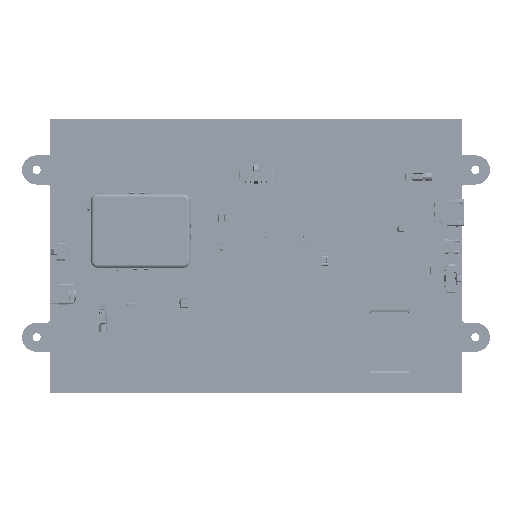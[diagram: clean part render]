
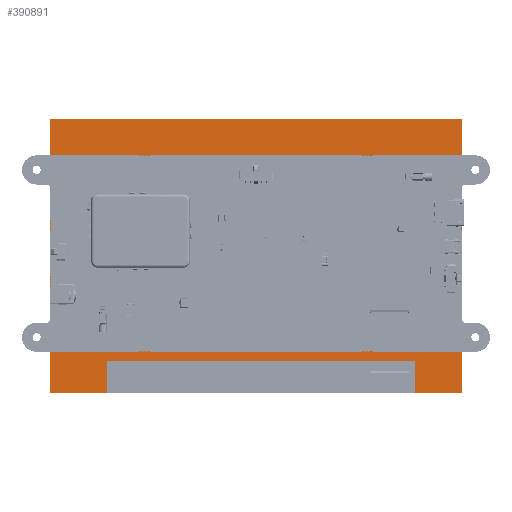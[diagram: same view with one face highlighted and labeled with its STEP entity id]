
A CAD part, top view. The second image highlights one B-rep face of the part: STEP entity #390891.
In plain terms, the highlighted planar face has unit normal (0, 0, 1) as drawn and (0, 0, -1) by its records, which use the part's own axes.
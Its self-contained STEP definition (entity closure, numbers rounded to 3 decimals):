
#13778 = CARTESIAN_POINT ( 'NONE',  ( -113.42, 74., 0. ) ) ;
#49294 = EDGE_CURVE ( 'NONE', #281680, #544116, #468323, .T. ) ;
#146579 = CARTESIAN_POINT ( 'NONE',  ( 115.43, 74., 0. ) ) ;
#176847 = VECTOR ( 'NONE', #225550, 1000. ) ;
#194713 = ORIENTED_EDGE ( 'NONE', *, *, #49294, .F. ) ;
#221592 = ORIENTED_EDGE ( 'NONE', *, *, #293831, .F. ) ;
#225550 = DIRECTION ( 'NONE',  ( 0., -1., 0. ) ) ;
#230825 = CARTESIAN_POINT ( 'NONE',  ( -113.42, 74., 0. ) ) ;
#281680 = VERTEX_POINT ( 'NONE', #660579 ) ;
#288755 = VECTOR ( 'NONE', #491684, 1000. ) ;
#293831 = EDGE_CURVE ( 'NONE', #544116, #445261, #475667, .T. ) ;
#303312 = DIRECTION ( 'NONE',  ( 0., 1., 0. ) ) ;
#338216 = PLANE ( 'NONE',  #821133 ) ;
#356572 = VECTOR ( 'NONE', #303312, 1000. ) ;
#390891 = ADVANCED_FACE ( 'NONE', ( #500021 ), #338216, .F. ) ;
#404562 = ORIENTED_EDGE ( 'NONE', *, *, #511970, .F. ) ;
#445261 = VERTEX_POINT ( 'NONE', #793959 ) ;
#468323 = LINE ( 'NONE', #230825, #176847 ) ;
#475667 = LINE ( 'NONE', #653755, #288755 ) ;
#491684 = DIRECTION ( 'NONE',  ( 1., 0., 0. ) ) ;
#500021 = FACE_OUTER_BOUND ( 'NONE', #976157, .T. ) ;
#505001 = LINE ( 'NONE', #13778, #1005564 ) ;
#509250 = ORIENTED_EDGE ( 'NONE', *, *, #555765, .F. ) ;
#511970 = EDGE_CURVE ( 'NONE', #698024, #281680, #505001, .T. ) ;
#523083 = CARTESIAN_POINT ( 'NONE',  ( -113.42, -78.74, 0. ) ) ;
#544116 = VERTEX_POINT ( 'NONE', #523083 ) ;
#545979 = LINE ( 'NONE', #146579, #356572 ) ;
#555765 = EDGE_CURVE ( 'NONE', #445261, #698024, #545979, .T. ) ;
#602343 = CARTESIAN_POINT ( 'NONE',  ( 0., 0., 0. ) ) ;
#653755 = CARTESIAN_POINT ( 'NONE',  ( -113.42, -78.74, 0. ) ) ;
#660579 = CARTESIAN_POINT ( 'NONE',  ( -113.42, 74., 0. ) ) ;
#672800 = DIRECTION ( 'NONE',  ( 0., 0., 1. ) ) ;
#698024 = VERTEX_POINT ( 'NONE', #975921 ) ;
#793959 = CARTESIAN_POINT ( 'NONE',  ( 115.43, -78.74, 0. ) ) ;
#821133 = AXIS2_PLACEMENT_3D ( 'NONE', #602343, #672800, #926619 ) ;
#829417 = DIRECTION ( 'NONE',  ( -1., 0., 0. ) ) ;
#926619 = DIRECTION ( 'NONE',  ( 1., 0., 0. ) ) ;
#975921 = CARTESIAN_POINT ( 'NONE',  ( 115.43, 74., 0. ) ) ;
#976157 = EDGE_LOOP ( 'NONE', ( #194713, #404562, #509250, #221592 ) ) ;
#1005564 = VECTOR ( 'NONE', #829417, 1000. ) ;
